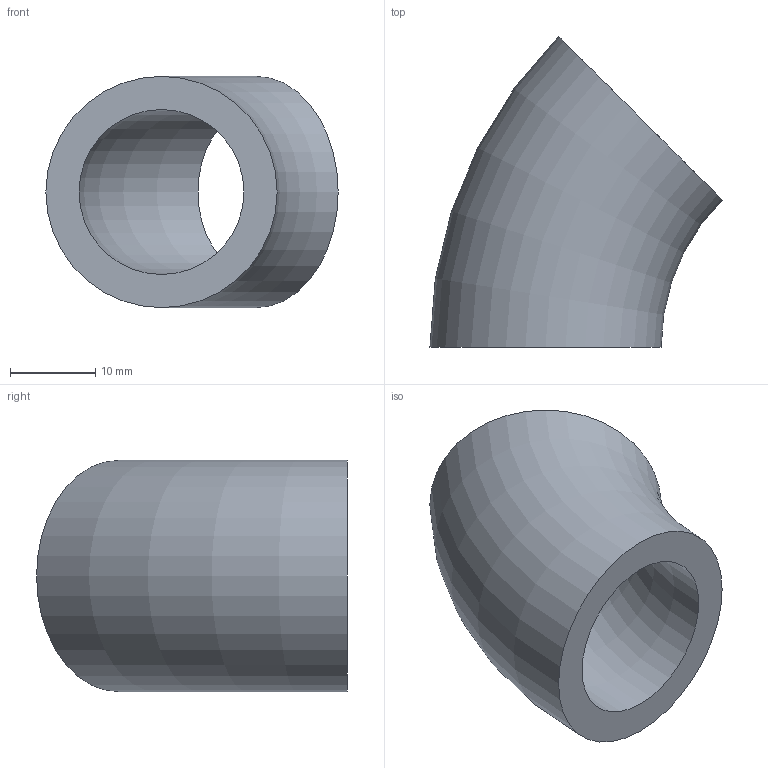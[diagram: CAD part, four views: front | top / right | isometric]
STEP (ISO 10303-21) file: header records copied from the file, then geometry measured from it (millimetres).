
FILE_DESCRIPTION(/* description */ (''),/* implementation_level */ '2;1');
FILE_NAME(/* name */ 'C:\Users\D\Documents\Inventor\HP\JIS\配管\エルボ ロング 45°\Sch80\Elbow45-long-20A-Sch80.stp',/* time_stamp */ '2022-06-08T17:03:45+09:00',/* author */ ('D'),/* organization */ (''),/* preprocessor_version */ 'ST-DEVELOPER v18',/* originating_system */ 'Autodesk Inventor 2020',/* authorisation */ '');
FILE_SCHEMA (('AUTOMOTIVE_DESIGN { 1 0 10303 214 3 1 1 }'));
Length unit declared in the file: millimetre
Products named in the file (1): Elbow-long-90-15A-SGP
Bounding box: 34.38 x 36.56 x 27.2 mm (x, y, z)
Volume: 8542.5 mm3; surface area: 4951.7 mm2
Topology: 1 solids, 1 shells, 4 faces, 10 edges, 8 vertices
Faces by surface type: torus 2, plane 2
Entity records: 181 total; most frequent: DIRECTION 30, CARTESIAN_POINT 23, ORIENTED_EDGE 20, AXIS2_PLACEMENT_3D 15, CIRCLE 10, EDGE_CURVE 10, VERTEX_POINT 8, EDGE_LOOP 6
